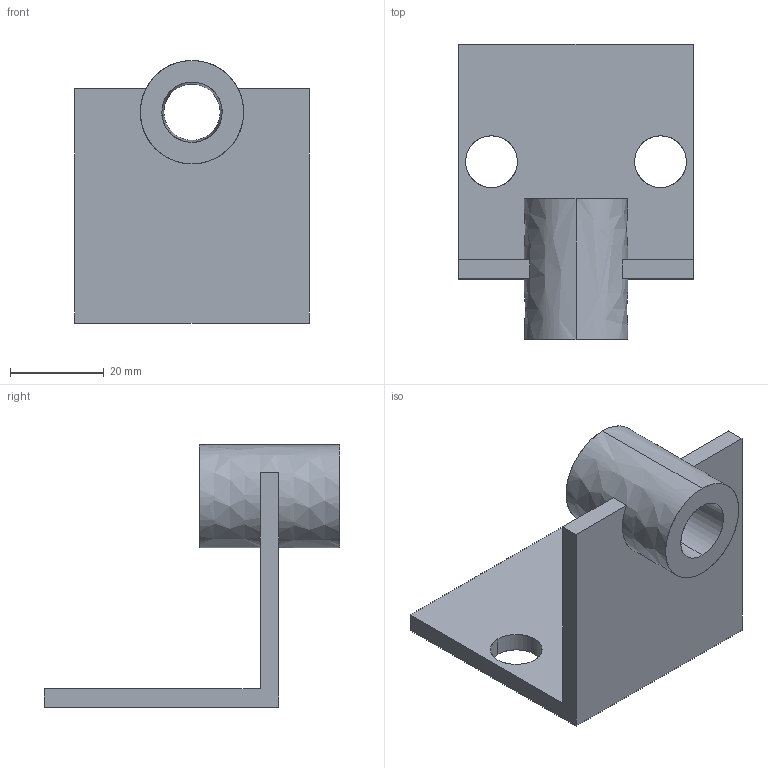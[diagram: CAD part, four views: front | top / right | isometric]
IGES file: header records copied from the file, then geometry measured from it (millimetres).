
Global section: file name: E:\UnigraphicsGraphicData\MISUMI_PRESS-PARTS\IGES\3d_dahk-c_03682_r00.igs; native system: NX V5.0; preprocessor: UGS NX IGES V5.0; author: MISUMI; date: 20110105.160523; units: millimetre
Bounding box: 50 x 63 x 56 mm (x, y, z)
Surface area: 13552 mm2 (no closed solid volume)
Topology: 0 solids, 0 shells, 23 faces, 182 edges, 182 vertices
Faces by surface type: bspline 23
